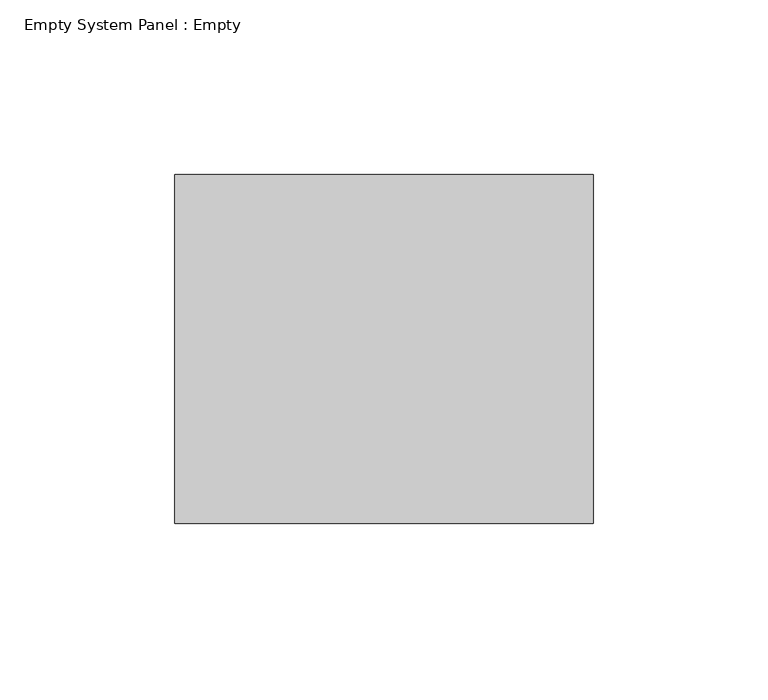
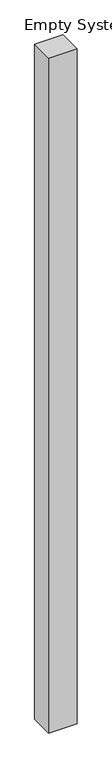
"""IFC4 building model written with IfcOpenShell, lengths in millimetres: plate geometry, Empty System Panel : Empty."""

from ifc_helpers import new_model, si_unit, origin, origin_with_axes, place, context, project, spatial, polyline, outline, extrude, source, transform, mapped, element, save


def empty_system_panel_empty_df7ddcff(model_context):
    return source(origin(), model_context, "Body", "SweptSolid", [
        extrude(outline(polyline([(59.9999998, 50.0), (-59.9999998, 50.0), (-59.9999998, 150.0), (59.9999998, 150.0), (59.9999998, 50.0)])), origin_with_axes(), (0.0, 0.0, 1.0), 3000.0),
    ])


if __name__ == "__main__":
    model = new_model("IFC4")
    model_context = context("Model", 3, world=origin())
    ifc_project = project(units=[si_unit("LENGTHUNIT", "METRE", prefix="MILLI")], contexts=[model_context])
    site = spatial("IfcSite", under=ifc_project)
    building = spatial("IfcBuilding", under=site)
    placement = place(None, origin())
    empty_system_panel_empty_shape = empty_system_panel_empty_df7ddcff(model_context)
    element("IfcPlate", 1, ObjectType="Empty System Panel : Empty", at=placement, inside=building, context=model_context, shape_type="MappedRepresentation", body=[
        mapped(empty_system_panel_empty_shape, transform((0.0, 0.0, 0.0), x_axis=(1.0, 0.0, 0.0), y_axis=(0.0, 1.0, 0.0), z_axis=(0.0, 0.0, 1.0))),
    ])
    save(model, "model.ifc")
